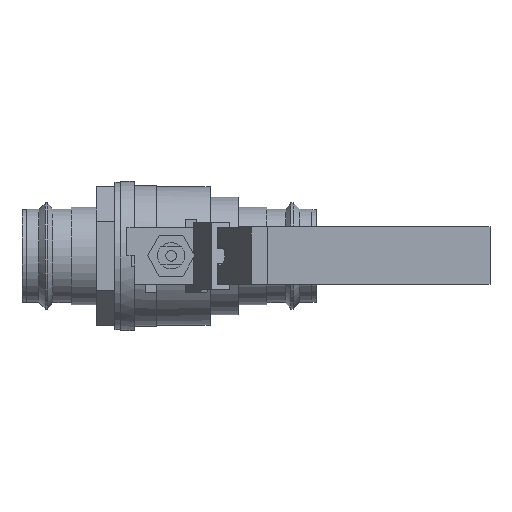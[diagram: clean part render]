
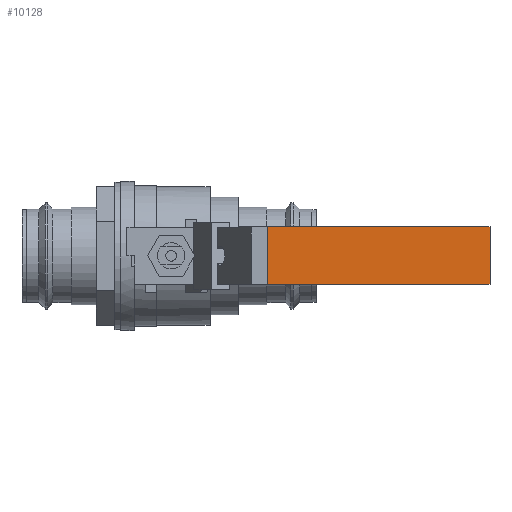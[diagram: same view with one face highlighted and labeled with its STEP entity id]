
A CAD part, top view. The second image highlights one B-rep face of the part: STEP entity #10128.
In plain terms, the highlighted planar face has unit normal (0, 0, 1).
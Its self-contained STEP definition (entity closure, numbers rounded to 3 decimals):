
#7954 = PLANE('',#7955);
#7955 = AXIS2_PLACEMENT_3D('',#7956,#7957,#7958);
#7956 = CARTESIAN_POINT('',(5.82,-0.468,3.428));
#7957 = DIRECTION('',(0.,1.,0.));
#7958 = DIRECTION('',(0.,-0.,1.));
#8058 = PLANE('',#8059);
#8059 = AXIS2_PLACEMENT_3D('',#8060,#8061,#8062);
#8060 = CARTESIAN_POINT('',(5.82,0.468,3.428));
#8061 = DIRECTION('',(0.,1.,0.));
#8062 = DIRECTION('',(0.,-0.,1.));
#8290 = PLANE('',#8291);
#8291 = AXIS2_PLACEMENT_3D('',#8292,#8293,#8294);
#8292 = CARTESIAN_POINT('',(4.007,0.468,3.428));
#8293 = DIRECTION('',(-1.,0.,0.));
#8294 = DIRECTION('',(0.,0.,-1.));
#9835 = VERTEX_POINT('',#9836);
#9836 = CARTESIAN_POINT('',(4.007,-0.468,3.551));
#9857 = EDGE_CURVE('',#9858,#9835,#9860,.T.);
#9858 = VERTEX_POINT('',#9859);
#9859 = CARTESIAN_POINT('',(4.007,0.468,3.551));
#9860 = SURFACE_CURVE('',#9861,(#9865,#9872),.PCURVE_S1.);
#9861 = LINE('',#9862,#9863);
#9862 = CARTESIAN_POINT('',(4.007,0.468,3.551));
#9863 = VECTOR('',#9864,1.);
#9864 = DIRECTION('',(0.,-1.,0.));
#9865 = PCURVE('',#8290,#9866);
#9866 = DEFINITIONAL_REPRESENTATION('',(#9867),#9871);
#9867 = LINE('',#9868,#9869);
#9868 = CARTESIAN_POINT('',(-0.123,-0.));
#9869 = VECTOR('',#9870,1.);
#9870 = DIRECTION('',(0.,1.));
#9871 = ( GEOMETRIC_REPRESENTATION_CONTEXT(2) 
PARAMETRIC_REPRESENTATION_CONTEXT() REPRESENTATION_CONTEXT('2D SPACE',''
  ) );
#9872 = PCURVE('',#9873,#9878);
#9873 = PLANE('',#9874);
#9874 = AXIS2_PLACEMENT_3D('',#9875,#9876,#9877);
#9875 = CARTESIAN_POINT('',(5.82,0.468,3.551));
#9876 = DIRECTION('',(0.,0.,1.));
#9877 = DIRECTION('',(-1.,0.,0.));
#9878 = DEFINITIONAL_REPRESENTATION('',(#9879),#9883);
#9879 = LINE('',#9880,#9881);
#9880 = CARTESIAN_POINT('',(1.813,0.));
#9881 = VECTOR('',#9882,1.);
#9882 = DIRECTION('',(0.,1.));
#9883 = ( GEOMETRIC_REPRESENTATION_CONTEXT(2) 
PARAMETRIC_REPRESENTATION_CONTEXT() REPRESENTATION_CONTEXT('2D SPACE',''
  ) );
#10046 = PLANE('',#10047);
#10047 = AXIS2_PLACEMENT_3D('',#10048,#10049,#10050);
#10048 = CARTESIAN_POINT('',(7.632,0.468,3.428));
#10049 = DIRECTION('',(1.,0.,0.));
#10050 = DIRECTION('',(0.,0.,1.));
#10062 = VERTEX_POINT('',#10063);
#10063 = CARTESIAN_POINT('',(7.632,-0.468,3.551));
#10086 = VERTEX_POINT('',#10087);
#10087 = CARTESIAN_POINT('',(7.632,0.468,3.551));
#10108 = EDGE_CURVE('',#10086,#10062,#10109,.T.);
#10109 = SURFACE_CURVE('',#10110,(#10114,#10121),.PCURVE_S1.);
#10110 = LINE('',#10111,#10112);
#10111 = CARTESIAN_POINT('',(7.632,0.468,3.551));
#10112 = VECTOR('',#10113,1.);
#10113 = DIRECTION('',(0.,-1.,0.));
#10114 = PCURVE('',#10046,#10115);
#10115 = DEFINITIONAL_REPRESENTATION('',(#10116),#10120);
#10116 = LINE('',#10117,#10118);
#10117 = CARTESIAN_POINT('',(0.123,0.));
#10118 = VECTOR('',#10119,1.);
#10119 = DIRECTION('',(0.,1.));
#10120 = ( GEOMETRIC_REPRESENTATION_CONTEXT(2) 
PARAMETRIC_REPRESENTATION_CONTEXT() REPRESENTATION_CONTEXT('2D SPACE',''
  ) );
#10121 = PCURVE('',#9873,#10122);
#10122 = DEFINITIONAL_REPRESENTATION('',(#10123),#10127);
#10123 = LINE('',#10124,#10125);
#10124 = CARTESIAN_POINT('',(-1.813,0.));
#10125 = VECTOR('',#10126,1.);
#10126 = DIRECTION('',(0.,1.));
#10127 = ( GEOMETRIC_REPRESENTATION_CONTEXT(2) 
PARAMETRIC_REPRESENTATION_CONTEXT() REPRESENTATION_CONTEXT('2D SPACE',''
  ) );
#10128 = ADVANCED_FACE('',(#10129),#9873,.T.);
#10129 = FACE_BOUND('',#10130,.T.);
#10130 = EDGE_LOOP('',(#10131,#10152,#10153,#10174));
#10131 = ORIENTED_EDGE('',*,*,#10132,.T.);
#10132 = EDGE_CURVE('',#9835,#10062,#10133,.T.);
#10133 = SURFACE_CURVE('',#10134,(#10138,#10145),.PCURVE_S1.);
#10134 = LINE('',#10135,#10136);
#10135 = CARTESIAN_POINT('',(7.632,-0.468,3.551));
#10136 = VECTOR('',#10137,1.);
#10137 = DIRECTION('',(1.,0.,0.));
#10138 = PCURVE('',#9873,#10139);
#10139 = DEFINITIONAL_REPRESENTATION('',(#10140),#10144);
#10140 = LINE('',#10141,#10142);
#10141 = CARTESIAN_POINT('',(-1.813,0.935));
#10142 = VECTOR('',#10143,1.);
#10143 = DIRECTION('',(-1.,0.));
#10144 = ( GEOMETRIC_REPRESENTATION_CONTEXT(2) 
PARAMETRIC_REPRESENTATION_CONTEXT() REPRESENTATION_CONTEXT('2D SPACE',''
  ) );
#10145 = PCURVE('',#7954,#10146);
#10146 = DEFINITIONAL_REPRESENTATION('',(#10147),#10151);
#10147 = LINE('',#10148,#10149);
#10148 = CARTESIAN_POINT('',(0.123,1.813));
#10149 = VECTOR('',#10150,1.);
#10150 = DIRECTION('',(0.,1.));
#10151 = ( GEOMETRIC_REPRESENTATION_CONTEXT(2) 
PARAMETRIC_REPRESENTATION_CONTEXT() REPRESENTATION_CONTEXT('2D SPACE',''
  ) );
#10152 = ORIENTED_EDGE('',*,*,#10108,.F.);
#10153 = ORIENTED_EDGE('',*,*,#10154,.T.);
#10154 = EDGE_CURVE('',#10086,#9858,#10155,.T.);
#10155 = SURFACE_CURVE('',#10156,(#10160,#10167),.PCURVE_S1.);
#10156 = LINE('',#10157,#10158);
#10157 = CARTESIAN_POINT('',(7.632,0.468,3.551));
#10158 = VECTOR('',#10159,1.);
#10159 = DIRECTION('',(-1.,0.,0.));
#10160 = PCURVE('',#9873,#10161);
#10161 = DEFINITIONAL_REPRESENTATION('',(#10162),#10166);
#10162 = LINE('',#10163,#10164);
#10163 = CARTESIAN_POINT('',(-1.813,0.));
#10164 = VECTOR('',#10165,1.);
#10165 = DIRECTION('',(1.,0.));
#10166 = ( GEOMETRIC_REPRESENTATION_CONTEXT(2) 
PARAMETRIC_REPRESENTATION_CONTEXT() REPRESENTATION_CONTEXT('2D SPACE',''
  ) );
#10167 = PCURVE('',#8058,#10168);
#10168 = DEFINITIONAL_REPRESENTATION('',(#10169),#10173);
#10169 = LINE('',#10170,#10171);
#10170 = CARTESIAN_POINT('',(0.123,1.813));
#10171 = VECTOR('',#10172,1.);
#10172 = DIRECTION('',(0.,-1.));
#10173 = ( GEOMETRIC_REPRESENTATION_CONTEXT(2) 
PARAMETRIC_REPRESENTATION_CONTEXT() REPRESENTATION_CONTEXT('2D SPACE',''
  ) );
#10174 = ORIENTED_EDGE('',*,*,#9857,.T.);
